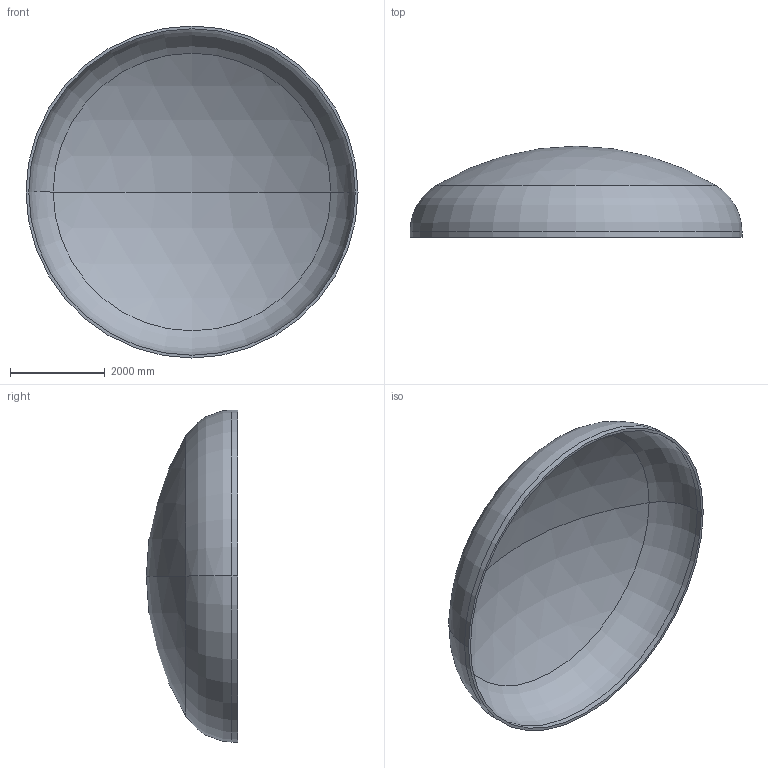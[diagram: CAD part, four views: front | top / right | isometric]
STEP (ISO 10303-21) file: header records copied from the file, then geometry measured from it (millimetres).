
FILE_DESCRIPTION (( 'STEP AP203' ), '1' );
FILE_NAME ('DIN 28013 Korbbogenform_-_Boden DIN 28013 - 7000 x 120 - I - s=58.step', '2016-07-04T10:48:21', ( '' ), ( '' ), 'SwSTEP 2.0', 'SolidWorks 2013', '' );
FILE_SCHEMA (( 'CONFIG_CONTROL_DESIGN' ));
Length unit declared in the file: millimetre
Products named in the file (1): DIN 28013 Korbbogenform_-_Boden DIN 28013 - 7000 x 120 - I - s=58
Bounding box: 7000 x 1924.25 x 7000 mm (x, y, z)
Volume: 3210655906.8 mm3; surface area: 111984193.7 mm2
Topology: 1 solids, 1 shells, 13 faces, 24 edges, 14 vertices
Faces by surface type: torus 4, cylinder 4, sphere 4, plane 1
Entity records: 407 total; most frequent: DIRECTION 72, CARTESIAN_POINT 52, ORIENTED_EDGE 48, AXIS2_PLACEMENT_3D 34, EDGE_CURVE 24, CIRCLE 20, EDGE_LOOP 14, VERTEX_POINT 14
